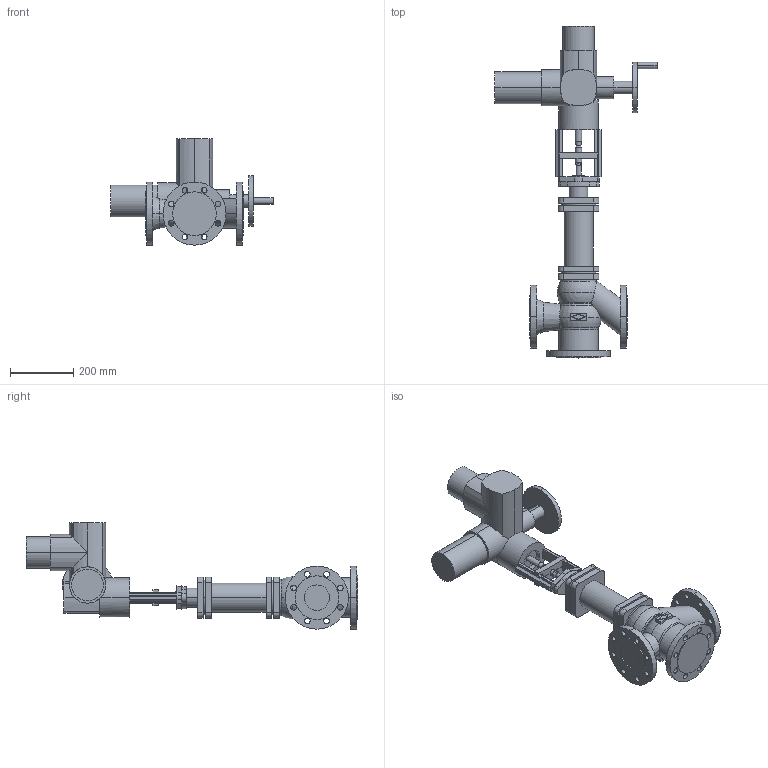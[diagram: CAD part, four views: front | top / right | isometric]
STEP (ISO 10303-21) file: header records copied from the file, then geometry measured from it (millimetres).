
FILE_DESCRIPTION(('OneSpaceDesigner STEP Export'),'2;1');
FILE_NAME('c000003192.stp','2007-01-25T11:47:02',(''),(''),'OneSpace Designer STEP processor for AP214 (Solid Model)','OneSpace Designer 14.00B 27-May-2006 (C) CoCreate Software GmbH','');
FILE_SCHEMA(('AUTOMOTIVE_DESIGN { 1 0 10303 214 1 1 1 1 }'));
Length unit declared in the file: millimetre
Products named in the file (2): 1; 2
Bounding box: 514 x 1051.7 x 337 mm (x, y, z)
Volume: 17150867.6 mm3; surface area: 971627.3 mm2
Topology: 2 solids, 2 shells, 368 faces, 956 edges, 610 vertices
Faces by surface type: cylinder 184, plane 162, torus 10, cone 8, sphere 4
Entity records: 10773 total; most frequent: CARTESIAN_POINT 2297, ORIENTED_EDGE 1904, DIRECTION 1586, EDGE_CURVE 952, VERTEX_POINT 610, AXIS2_PLACEMENT_3D 548, VECTOR 490, LINE 490
